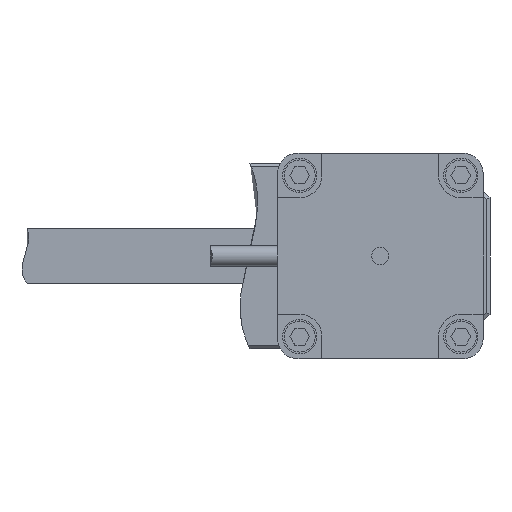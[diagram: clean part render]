
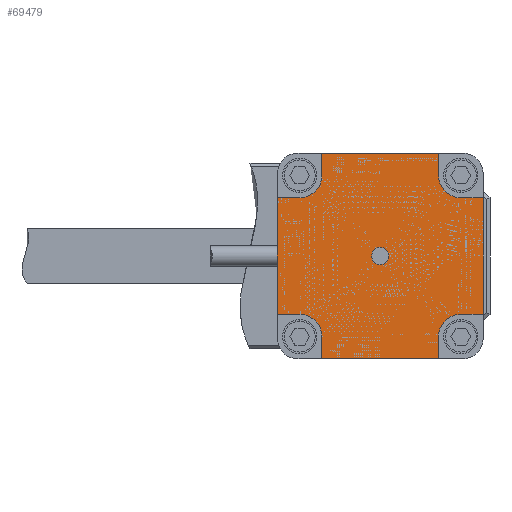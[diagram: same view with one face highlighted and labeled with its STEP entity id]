
A CAD part, front view. The second image highlights one B-rep face of the part: STEP entity #69479.
In plain terms, the highlighted planar face has unit normal (0, -1, 0) as drawn and (0, 1, 0) by its records, which use the part's own axes.
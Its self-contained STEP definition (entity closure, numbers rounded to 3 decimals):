
#68267=DIRECTION('',(1.,0.,0.));
#68268=VECTOR('',#68267,6.5);
#68269=CARTESIAN_POINT('',(-30.,10.,-17.));
#68270=LINE('',#68269,#68268);
#68271=CARTESIAN_POINT('',(-23.5,10.,-23.5));
#68272=DIRECTION('',(0.,1.,0.));
#68273=DIRECTION('',(0.,0.,1.));
#68274=AXIS2_PLACEMENT_3D('',#68271,#68272,#68273);
#68276=DIRECTION('',(0.,0.,1.));
#68277=VECTOR('',#68276,6.5);
#68278=CARTESIAN_POINT('',(-17.,10.,-30.));
#68279=LINE('',#68278,#68277);
#68280=DIRECTION('',(-1.,0.,0.));
#68281=VECTOR('',#68280,34.);
#68282=CARTESIAN_POINT('',(17.,10.,-30.));
#68283=LINE('',#68282,#68281);
#68284=DIRECTION('',(0.,0.,1.));
#68285=VECTOR('',#68284,6.5);
#68286=CARTESIAN_POINT('',(17.,10.,-30.));
#68287=LINE('',#68286,#68285);
#68288=CARTESIAN_POINT('',(23.5,10.,-23.5));
#68289=DIRECTION('',(0.,1.,0.));
#68290=DIRECTION('',(-1.,0.,0.));
#68291=AXIS2_PLACEMENT_3D('',#68288,#68289,#68290);
#68293=DIRECTION('',(-1.,0.,0.));
#68294=VECTOR('',#68293,6.5);
#68295=CARTESIAN_POINT('',(30.,10.,-17.));
#68296=LINE('',#68295,#68294);
#68297=DIRECTION('',(0.,0.,-1.));
#68298=VECTOR('',#68297,34.);
#68299=CARTESIAN_POINT('',(30.,10.,17.));
#68300=LINE('',#68299,#68298);
#68301=DIRECTION('',(-1.,0.,0.));
#68302=VECTOR('',#68301,6.5);
#68303=CARTESIAN_POINT('',(30.,10.,17.));
#68304=LINE('',#68303,#68302);
#68305=CARTESIAN_POINT('',(23.5,10.,23.5));
#68306=DIRECTION('',(0.,1.,0.));
#68307=DIRECTION('',(0.,0.,-1.));
#68308=AXIS2_PLACEMENT_3D('',#68305,#68306,#68307);
#68310=DIRECTION('',(0.,0.,-1.));
#68311=VECTOR('',#68310,6.5);
#68312=CARTESIAN_POINT('',(17.,10.,30.));
#68313=LINE('',#68312,#68311);
#68314=DIRECTION('',(1.,0.,0.));
#68315=VECTOR('',#68314,34.);
#68316=CARTESIAN_POINT('',(-17.,10.,30.));
#68317=LINE('',#68316,#68315);
#68318=DIRECTION('',(0.,0.,-1.));
#68319=VECTOR('',#68318,6.5);
#68320=CARTESIAN_POINT('',(-17.,10.,30.));
#68321=LINE('',#68320,#68319);
#68322=CARTESIAN_POINT('',(-23.5,10.,23.5));
#68323=DIRECTION('',(0.,1.,0.));
#68324=DIRECTION('',(1.,0.,0.));
#68325=AXIS2_PLACEMENT_3D('',#68322,#68323,#68324);
#68327=DIRECTION('',(1.,0.,0.));
#68328=VECTOR('',#68327,6.5);
#68329=CARTESIAN_POINT('',(-30.,10.,17.));
#68330=LINE('',#68329,#68328);
#68331=DIRECTION('',(0.,0.,1.));
#68332=VECTOR('',#68331,34.);
#68333=CARTESIAN_POINT('',(-30.,10.,-17.));
#68334=LINE('',#68333,#68332);
#68335=CARTESIAN_POINT('',(0.,10.,0.));
#68336=DIRECTION('',(0.,1.,0.));
#68337=DIRECTION('',(1.,0.,0.));
#68338=AXIS2_PLACEMENT_3D('',#68335,#68336,#68337);
#68340=CARTESIAN_POINT('',(0.,10.,0.));
#68341=DIRECTION('',(0.,1.,0.));
#68342=DIRECTION('',(-1.,0.,0.));
#68343=AXIS2_PLACEMENT_3D('',#68340,#68341,#68342);
#68949=CARTESIAN_POINT('',(17.,10.,-30.));
#68950=CARTESIAN_POINT('',(17.,10.,-23.5));
#68951=VERTEX_POINT('',#68949);
#68952=VERTEX_POINT('',#68950);
#68953=CARTESIAN_POINT('',(23.5,10.,-17.));
#68954=VERTEX_POINT('',#68953);
#68955=CARTESIAN_POINT('',(30.,10.,-17.));
#68956=VERTEX_POINT('',#68955);
#68969=CARTESIAN_POINT('',(30.,10.,17.));
#68970=CARTESIAN_POINT('',(23.5,10.,17.));
#68971=VERTEX_POINT('',#68969);
#68972=VERTEX_POINT('',#68970);
#68973=CARTESIAN_POINT('',(17.,10.,23.5));
#68974=VERTEX_POINT('',#68973);
#68975=CARTESIAN_POINT('',(17.,10.,30.));
#68976=VERTEX_POINT('',#68975);
#68989=CARTESIAN_POINT('',(-17.,10.,30.));
#68990=CARTESIAN_POINT('',(-17.,10.,23.5));
#68991=VERTEX_POINT('',#68989);
#68992=VERTEX_POINT('',#68990);
#68993=CARTESIAN_POINT('',(-23.5,10.,17.));
#68994=VERTEX_POINT('',#68993);
#68995=CARTESIAN_POINT('',(-30.,10.,17.));
#68996=VERTEX_POINT('',#68995);
#69009=CARTESIAN_POINT('',(-30.,10.,-17.));
#69010=CARTESIAN_POINT('',(-23.5,10.,-17.));
#69011=VERTEX_POINT('',#69009);
#69012=VERTEX_POINT('',#69010);
#69013=CARTESIAN_POINT('',(-17.,10.,-23.5));
#69014=VERTEX_POINT('',#69013);
#69015=CARTESIAN_POINT('',(-17.,10.,-30.));
#69016=VERTEX_POINT('',#69015);
#69047=CARTESIAN_POINT('',(2.5,10.,0.));
#69048=CARTESIAN_POINT('',(-2.5,10.,0.));
#69049=VERTEX_POINT('',#69047);
#69050=VERTEX_POINT('',#69048);
#69439=CARTESIAN_POINT('',(0.,10.,0.));
#69440=DIRECTION('',(0.,1.,0.));
#69441=DIRECTION('',(1.,0.,0.));
#69442=AXIS2_PLACEMENT_3D('',#69439,#69440,#69441);
#69443=PLANE('',#69442);
#69444=ORIENTED_EDGE('',*,*,#69430,.T.);
#69446=ORIENTED_EDGE('',*,*,#69445,.T.);
#69448=ORIENTED_EDGE('',*,*,#69447,.F.);
#69449=ORIENTED_EDGE('',*,*,#69267,.F.);
#69451=ORIENTED_EDGE('',*,*,#69450,.T.);
#69453=ORIENTED_EDGE('',*,*,#69452,.T.);
#69455=ORIENTED_EDGE('',*,*,#69454,.F.);
#69456=ORIENTED_EDGE('',*,*,#69321,.F.);
#69458=ORIENTED_EDGE('',*,*,#69457,.T.);
#69460=ORIENTED_EDGE('',*,*,#69459,.T.);
#69462=ORIENTED_EDGE('',*,*,#69461,.F.);
#69463=ORIENTED_EDGE('',*,*,#69367,.F.);
#69465=ORIENTED_EDGE('',*,*,#69464,.T.);
#69467=ORIENTED_EDGE('',*,*,#69466,.T.);
#69469=ORIENTED_EDGE('',*,*,#69468,.F.);
#69470=ORIENTED_EDGE('',*,*,#69413,.F.);
#69471=EDGE_LOOP('',(#69444,#69446,#69448,#69449,#69451,#69453,#69455,#69456,
#69458,#69460,#69462,#69463,#69465,#69467,#69469,#69470));
#69472=FACE_OUTER_BOUND('',#69471,.F.);
#69474=ORIENTED_EDGE('',*,*,#69473,.T.);
#69476=ORIENTED_EDGE('',*,*,#69475,.T.);
#69477=EDGE_LOOP('',(#69474,#69476));
#69478=FACE_BOUND('',#69477,.F.);
#69479=ADVANCED_FACE('',(#69472,#69478),#69443,.T.);
#68275=CIRCLE('',#68274,6.5);
#68292=CIRCLE('',#68291,6.5);
#68309=CIRCLE('',#68308,6.5);
#68326=CIRCLE('',#68325,6.5);
#68339=CIRCLE('',#68338,2.5);
#68344=CIRCLE('',#68343,2.5);
#69267=EDGE_CURVE('',#68951,#69016,#68283,.T.);
#69321=EDGE_CURVE('',#68971,#68956,#68300,.T.);
#69367=EDGE_CURVE('',#68991,#68976,#68317,.T.);
#69413=EDGE_CURVE('',#69011,#68996,#68334,.T.);
#69430=EDGE_CURVE('',#69011,#69012,#68270,.T.);
#69445=EDGE_CURVE('',#69012,#69014,#68275,.T.);
#69447=EDGE_CURVE('',#69016,#69014,#68279,.T.);
#69450=EDGE_CURVE('',#68951,#68952,#68287,.T.);
#69452=EDGE_CURVE('',#68952,#68954,#68292,.T.);
#69454=EDGE_CURVE('',#68956,#68954,#68296,.T.);
#69457=EDGE_CURVE('',#68971,#68972,#68304,.T.);
#69459=EDGE_CURVE('',#68972,#68974,#68309,.T.);
#69461=EDGE_CURVE('',#68976,#68974,#68313,.T.);
#69464=EDGE_CURVE('',#68991,#68992,#68321,.T.);
#69466=EDGE_CURVE('',#68992,#68994,#68326,.T.);
#69468=EDGE_CURVE('',#68996,#68994,#68330,.T.);
#69473=EDGE_CURVE('',#69049,#69050,#68339,.T.);
#69475=EDGE_CURVE('',#69050,#69049,#68344,.T.);
